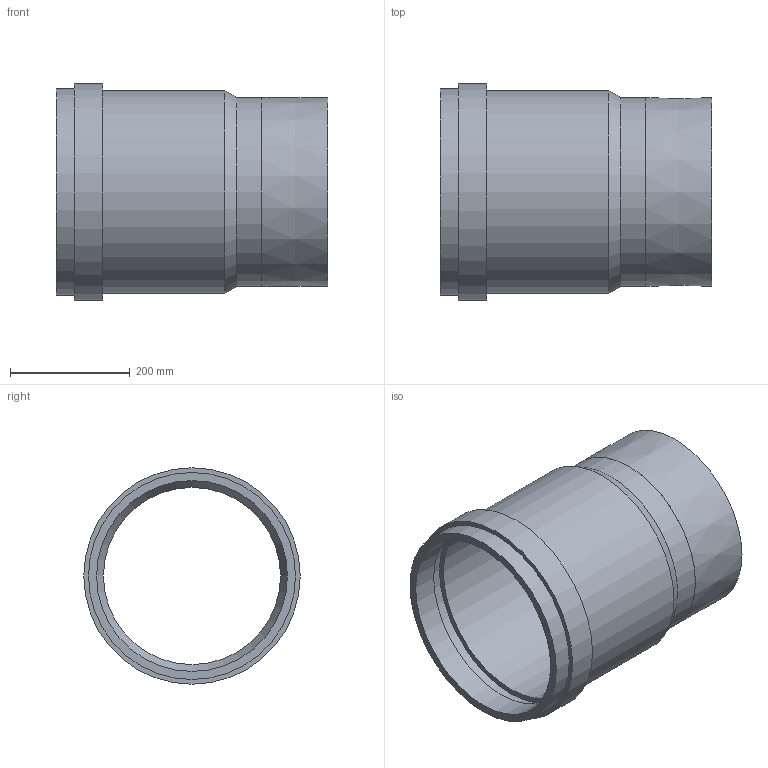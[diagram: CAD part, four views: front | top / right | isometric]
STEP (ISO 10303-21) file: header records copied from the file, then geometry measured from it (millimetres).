
FILE_DESCRIPTION(/* description */ (''),/* implementation_level */ '2;1');
FILE_NAME(/* name */ 'Z:\Geberit\Export\NewStep\PE Muffe_ART\stp\372700.stp',/* time_stamp */ '2014-04-03T16:31:10+02:00',/* author */ ('bruh'),/* organization */ (''),/* preprocessor_version */ 'ST-DEVELOPER v15.2',/* originating_system */ 'Autodesk Inventor 2014',/* authorisation */ '');
FILE_SCHEMA (('AUTOMOTIVE_DESIGN { 1 0 10303 214 3 1 1 }'));
Length unit declared in the file: millimetre
Products named in the file (2): 889.172.16.0.03; 372700
Bounding box: 453 x 361.1 x 361.1 mm (x, y, z)
Volume: 4999169.9 mm3; surface area: 986294.3 mm2
Topology: 1 solids, 1 shells, 18 faces, 31 edges, 20 vertices
Faces by surface type: cylinder 8, plane 7, cone 3
Full cylindrical faces by diameter (mm): 295.4 x1, 315 x1, 318.4 x2, 336.9 x1, 338 x1, 345.2 x1, 361.1 x1
Entity records: 408 total; most frequent: DIRECTION 78, CARTESIAN_POINT 57, AXIS2_PLACEMENT_3D 39, EDGE_LOOP 36, ORIENTED_EDGE 36, FACE_BOUND 21, CIRCLE 18, VERTEX_POINT 18
